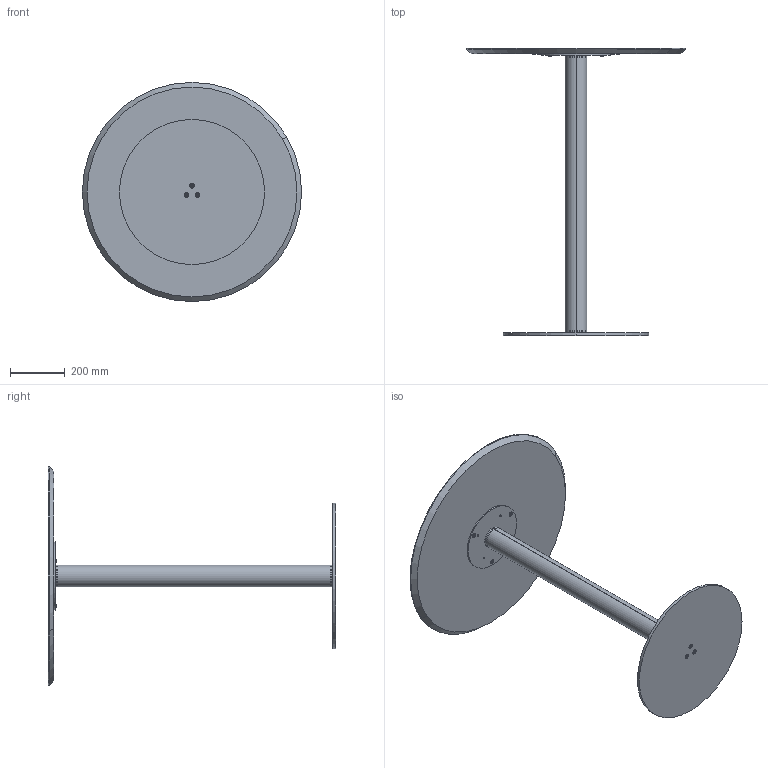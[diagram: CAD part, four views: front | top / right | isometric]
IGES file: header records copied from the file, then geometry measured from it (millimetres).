
Start section: SolidWorks IGES file using analytic representation for surfaces
Global section: file name: Y:\eforma\TECNICO\SOLIDWORKS\E-FORMA\5-TAVOLINI BISTRO\CILINDRO BISTRÒ H105\02 parts\CB40W.IGS; native system: SolidWorks 2022; preprocessor: SolidWorks 2022; author: eforma.tech; date: 240808.105343; units: millimetre
Bounding box: 800 x 1049 x 800 mm (x, y, z)
Volume: 12690739.8 mm3; surface area: 2119207.4 mm2
Topology: 15 solids, 15 shells, 413 faces, 882 edges, 486 vertices
Faces by surface type: revolution 239, plane 174
